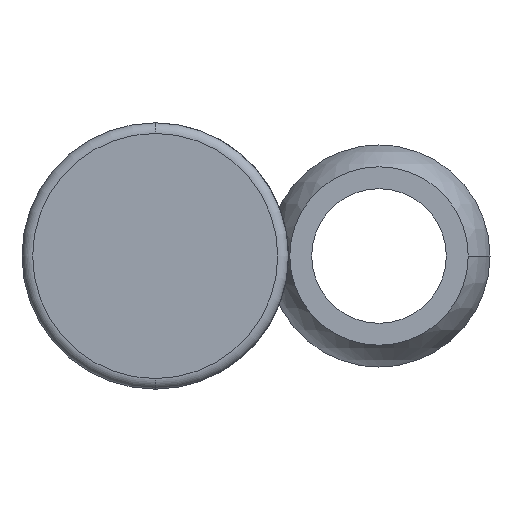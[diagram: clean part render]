
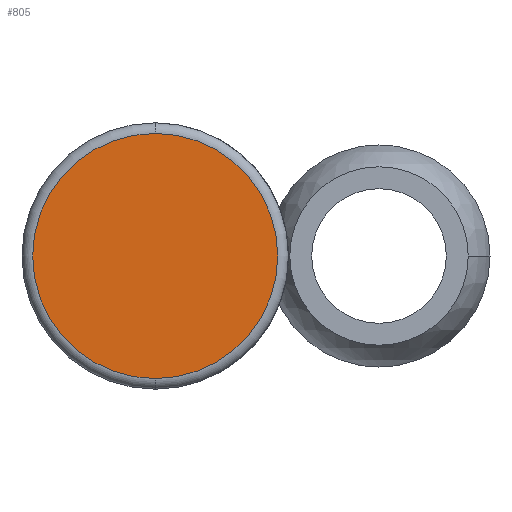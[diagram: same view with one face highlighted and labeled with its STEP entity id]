
A CAD part, front view. The second image highlights one B-rep face of the part: STEP entity #805.
In plain terms, the highlighted planar face has unit normal (0, -1, 0).
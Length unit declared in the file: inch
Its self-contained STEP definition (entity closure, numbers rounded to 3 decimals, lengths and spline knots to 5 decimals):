
#51 = CARTESIAN_POINT ( 'NONE',  ( 0., -1.25, -0.345 ) ) ;
#105 = FACE_OUTER_BOUND ( 'NONE', #632, .T. ) ;
#131 = DIRECTION ( 'NONE',  ( 0., 0., 1. ) ) ;
#172 = DIRECTION ( 'NONE',  ( 0., 0., 1. ) ) ;
#184 = ORIENTED_EDGE ( 'NONE', *, *, #697, .T. ) ;
#241 = CARTESIAN_POINT ( 'NONE',  ( 0., -1.25, 0. ) ) ;
#244 = CIRCLE ( 'NONE', #284, 0.345 ) ;
#284 = AXIS2_PLACEMENT_3D ( 'NONE', #975, #1153, #131 ) ;
#377 = ORIENTED_EDGE ( 'NONE', *, *, #648, .T. ) ;
#431 = VERTEX_POINT ( 'NONE', #997 ) ;
#539 = PLANE ( 'NONE',  #1099 ) ;
#622 = VERTEX_POINT ( 'NONE', #51 ) ;
#632 = EDGE_LOOP ( 'NONE', ( #184, #377 ) ) ;
#637 = AXIS2_PLACEMENT_3D ( 'NONE', #241, #1105, #172 ) ;
#638 = DIRECTION ( 'NONE',  ( 0., 0., 1. ) ) ;
#648 = EDGE_CURVE ( 'NONE', #622, #431, #244, .T. ) ;
#697 = EDGE_CURVE ( 'NONE', #431, #622, #856, .T. ) ;
#747 = CARTESIAN_POINT ( 'NONE',  ( 0., -1.25, 0. ) ) ;
#805 = ADVANCED_FACE ( 'NONE', ( #105 ), #539, .F. ) ;
#856 = CIRCLE ( 'NONE', #637, 0.345 ) ;
#975 = CARTESIAN_POINT ( 'NONE',  ( 0., -1.25, 0. ) ) ;
#997 = CARTESIAN_POINT ( 'NONE',  ( 0., -1.25, 0.345 ) ) ;
#1099 = AXIS2_PLACEMENT_3D ( 'NONE', #747, #1180, #638 ) ;
#1105 = DIRECTION ( 'NONE',  ( 0., -1., 0. ) ) ;
#1153 = DIRECTION ( 'NONE',  ( 0., -1., 0. ) ) ;
#1180 = DIRECTION ( 'NONE',  ( 0., 1., 0. ) ) ;
